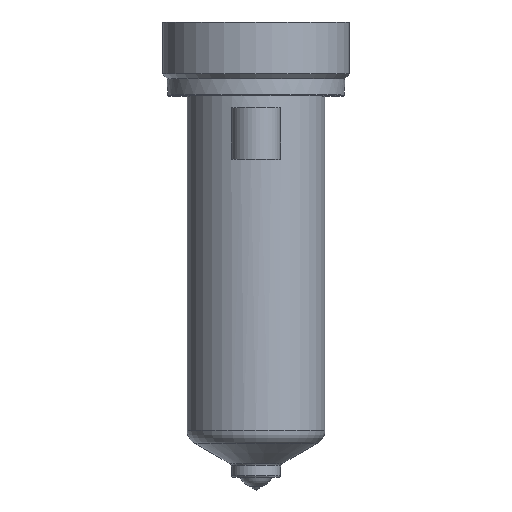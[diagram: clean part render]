
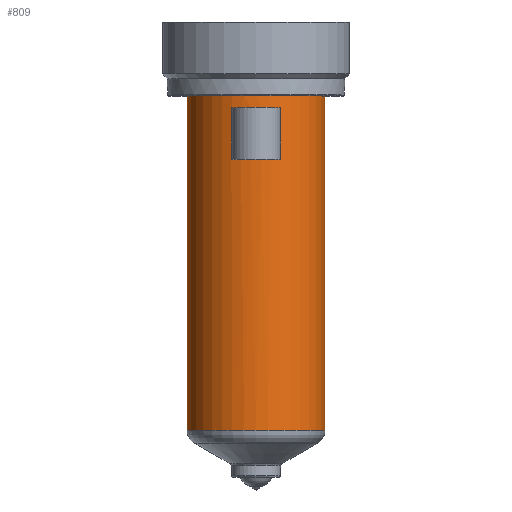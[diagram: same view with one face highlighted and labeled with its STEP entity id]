
A CAD part, top view. The second image highlights one B-rep face of the part: STEP entity #809.
In plain terms, the highlighted cylindrical face has radius 14 mm (diameter 28 mm), a partial arc.
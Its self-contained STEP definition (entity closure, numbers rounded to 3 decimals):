
#195=DIRECTION('',(0.,-1.,0.));
#196=VECTOR('',#195,67.893);
#197=CARTESIAN_POINT('',(14.,0.,0.));
#198=LINE('',#197,#196);
#199=CARTESIAN_POINT('',(0.,-67.893,0.));
#200=DIRECTION('',(0.,1.,0.));
#201=DIRECTION('',(-1.,0.,0.));
#202=AXIS2_PLACEMENT_3D('',#199,#200,#201);
#204=DIRECTION('',(0.,1.,0.));
#205=VECTOR('',#204,67.893);
#206=CARTESIAN_POINT('',(-14.,-67.893,0.));
#207=LINE('',#206,#205);
#208=CARTESIAN_POINT('',(0.,0.,0.));
#209=DIRECTION('',(0.,1.,0.));
#210=DIRECTION('',(-1.,0.,0.));
#211=AXIS2_PLACEMENT_3D('',#208,#209,#210);
#375=DIRECTION('',(0.,-1.,0.));
#376=VECTOR('',#375,10.5);
#377=CARTESIAN_POINT('',(-5.,-2.5,13.077));
#378=LINE('',#377,#376);
#383=CARTESIAN_POINT('',(0.,-13.,0.));
#384=DIRECTION('',(0.,1.,0.));
#385=DIRECTION('',(-0.357,0.,0.934));
#386=AXIS2_PLACEMENT_3D('',#383,#384,#385);
#418=CARTESIAN_POINT('',(0.,-2.5,0.));
#419=DIRECTION('',(0.,-1.,0.));
#420=DIRECTION('',(0.357,0.,0.934));
#421=AXIS2_PLACEMENT_3D('',#418,#419,#420);
#423=DIRECTION('',(0.,-1.,0.));
#424=VECTOR('',#423,10.5);
#425=CARTESIAN_POINT('',(5.,-2.5,13.077));
#426=LINE('',#425,#424);
#484=CARTESIAN_POINT('',(-14.,0.,0.));
#485=CARTESIAN_POINT('',(14.,0.,0.));
#486=VERTEX_POINT('',#484);
#487=VERTEX_POINT('',#485);
#496=CARTESIAN_POINT('',(5.,-2.5,13.077));
#497=VERTEX_POINT('',#496);
#498=CARTESIAN_POINT('',(-5.,-2.5,13.077));
#499=VERTEX_POINT('',#498);
#536=CARTESIAN_POINT('',(14.,-67.893,0.));
#537=VERTEX_POINT('',#536);
#546=CARTESIAN_POINT('',(-14.,-67.893,0.));
#547=VERTEX_POINT('',#546);
#568=CARTESIAN_POINT('',(-5.,-13.,13.077));
#569=CARTESIAN_POINT('',(5.,-13.,13.077));
#570=VERTEX_POINT('',#568);
#571=VERTEX_POINT('',#569);
#787=CARTESIAN_POINT('',(0.,16.4,0.));
#788=DIRECTION('',(0.,-1.,0.));
#789=DIRECTION('',(-1.,0.,0.));
#790=AXIS2_PLACEMENT_3D('',#787,#788,#789);
#791=CYLINDRICAL_SURFACE('',#790,14.);
#792=ORIENTED_EDGE('',*,*,#781,.T.);
#794=ORIENTED_EDGE('',*,*,#793,.F.);
#795=ORIENTED_EDGE('',*,*,#777,.T.);
#796=ORIENTED_EDGE('',*,*,#767,.T.);
#797=EDGE_LOOP('',(#792,#794,#795,#796));
#798=FACE_OUTER_BOUND('',#797,.F.);
#800=ORIENTED_EDGE('',*,*,#799,.T.);
#802=ORIENTED_EDGE('',*,*,#801,.T.);
#804=ORIENTED_EDGE('',*,*,#803,.F.);
#806=ORIENTED_EDGE('',*,*,#805,.T.);
#807=EDGE_LOOP('',(#800,#802,#804,#806));
#808=FACE_BOUND('',#807,.F.);
#809=ADVANCED_FACE('',(#798,#808),#791,.T.);
#203=CIRCLE('',#202,14.);
#212=CIRCLE('',#211,14.);
#387=CIRCLE('',#386,14.);
#422=CIRCLE('',#421,14.);
#767=EDGE_CURVE('',#486,#487,#212,.T.);
#777=EDGE_CURVE('',#547,#486,#207,.T.);
#781=EDGE_CURVE('',#487,#537,#198,.T.);
#793=EDGE_CURVE('',#547,#537,#203,.T.);
#799=EDGE_CURVE('',#499,#570,#378,.T.);
#801=EDGE_CURVE('',#570,#571,#387,.T.);
#803=EDGE_CURVE('',#497,#571,#426,.T.);
#805=EDGE_CURVE('',#497,#499,#422,.T.);
